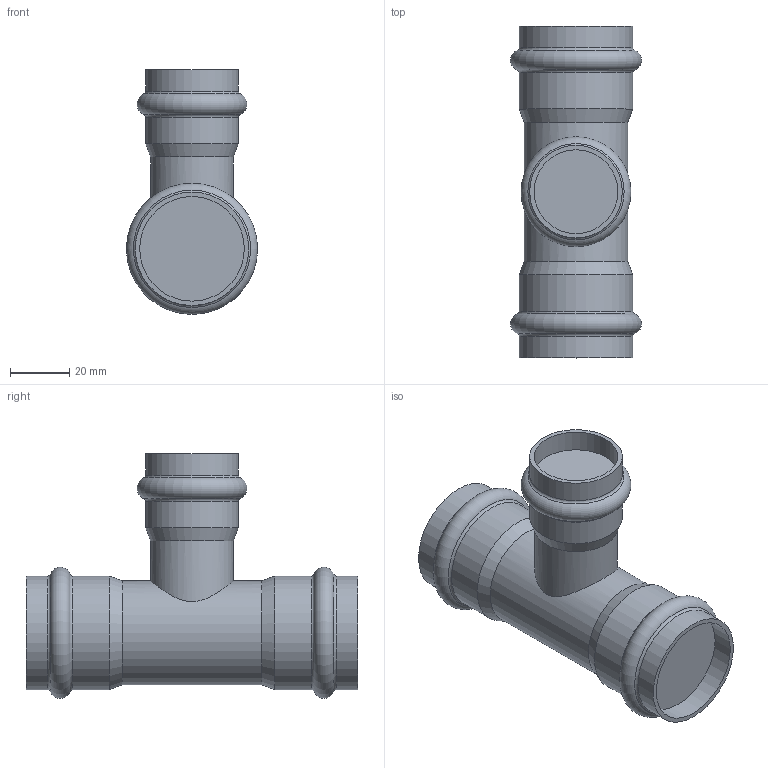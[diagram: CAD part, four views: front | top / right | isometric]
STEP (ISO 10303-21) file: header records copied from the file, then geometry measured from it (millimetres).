
FILE_DESCRIPTION(('STEP AP203'), '1');
FILE_NAME('VTi.931.I.352835', '', ('UNSPECIFIED'), ('UNSPECIFIED'), 'C3D Converter', 'C3D Toolkit', '');
FILE_SCHEMA(('CONFIG_CONTROL_DESIGN'));
Length unit declared in the file: millimetre
Bounding box: 44.28 x 112 x 82.64 mm (x, y, z)
Volume: 137824.8 mm3; surface area: 23253.8 mm2
Topology: 1 solids, 1 shells, 29 faces, 53 edges, 29 vertices
Faces by surface type: cylinder 11, torus 9, plane 6, cone 3
Full cylindrical faces by diameter (mm): 28 x1, 28.3 x1, 31.26 x2, 35 x1, 35.3 x2, 38.3 x4
Entity records: 860 total; most frequent: CARTESIAN_POINT 330, DIRECTION 114, ORIENTED_EDGE 58, AXIS2_PLACEMENT_3D 57, EDGE_LOOP 56, FACE_OUTER_BOUND 45, ADVANCED_FACE 29, EDGE_CURVE 29
